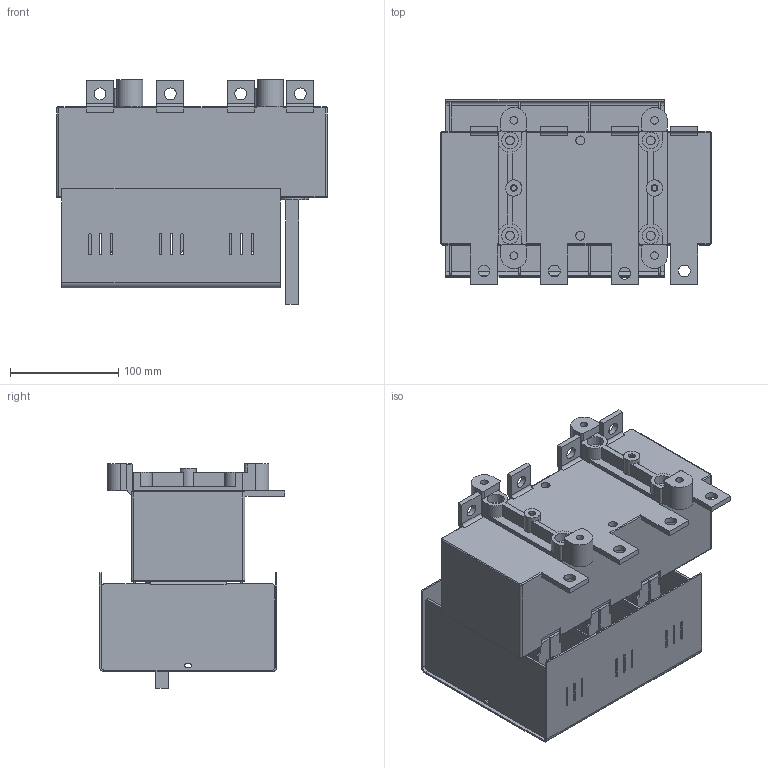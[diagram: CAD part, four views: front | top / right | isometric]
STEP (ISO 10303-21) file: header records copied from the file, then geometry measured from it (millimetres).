
FILE_DESCRIPTION(/* description */ (''),/* implementation_level */ '2;1');
FILE_NAME(/* name */ 'RAB 2 P3 NB.stp',/* time_stamp */ '2021-08-19T13:56:33+02:00',/* author */ (''),/* organization */ (''),/* preprocessor_version */ 'ST-DEVELOPER v18.1',/* originating_system */ 'SIEMENS PLM Software NX 1965',/* authorisation */ '');
FILE_SCHEMA (('AUTOMOTIVE_DESIGN { 1 0 10303 214 3 1 1 1 }'));
Length unit declared in the file: millimetre
Products named in the file (1): RAB 2 P3 NB_stp
Bounding box: 250 x 171.15 x 207.3 mm (x, y, z)
Volume: 2452209.8 mm3; surface area: 440904.8 mm2
Topology: 1 solids, 7 shells, 1130 faces, 3086 edges, 2002 vertices
Faces by surface type: plane 736, cylinder 386, torus 5, bspline 3
Full cylindrical faces by diameter (mm): 4.8 x2, 5.2 x18, 6.2 x2, 7 x4, 8.2 x6, 11 x8, 14 x4, 15 x2, 15.5 x4
Entity records: 35661 total; most frequent: CARTESIAN_POINT 6302, DIRECTION 6068, ORIENTED_EDGE 6064, EDGE_CURVE 3032, LINE 2228, VECTOR 2228, VERTEX_POINT 1998, AXIS2_PLACEMENT_3D 1920
